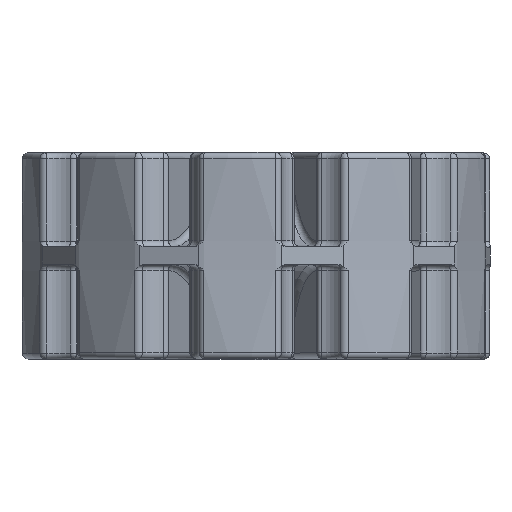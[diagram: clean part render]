
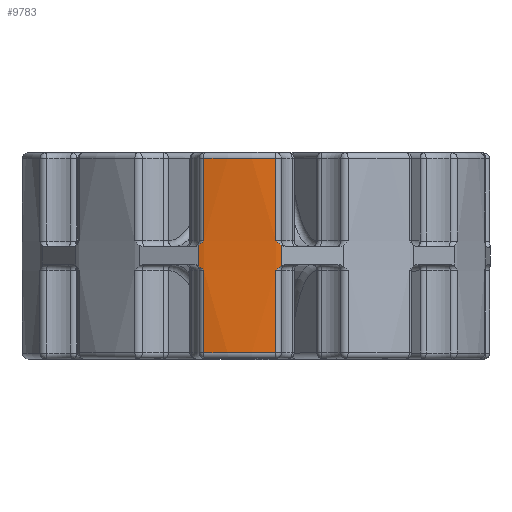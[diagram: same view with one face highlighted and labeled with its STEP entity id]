
A CAD part, top view. The second image highlights one B-rep face of the part: STEP entity #9783.
In plain terms, the highlighted cylindrical face has radius 39.8 mm (diameter 79.6 mm), a partial arc.
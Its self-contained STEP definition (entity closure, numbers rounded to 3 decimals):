
#481=CYLINDRICAL_SURFACE('',#10705,39.8);
#709=B_SPLINE_CURVE_WITH_KNOTS('',3,(#16665,#16666,#16667,#16668),
 .UNSPECIFIED.,.F.,.F.,(4,4),(0.,0.001),.UNSPECIFIED.);
#710=B_SPLINE_CURVE_WITH_KNOTS('',3,(#16676,#16677,#16678,#16679),
 .UNSPECIFIED.,.F.,.F.,(4,4),(0.,0.001),
 .UNSPECIFIED.);
#711=B_SPLINE_CURVE_WITH_KNOTS('',3,(#16683,#16684,#16685,#16686),
 .UNSPECIFIED.,.F.,.F.,(4,4),(0.,0.001),
 .UNSPECIFIED.);
#712=B_SPLINE_CURVE_WITH_KNOTS('',3,(#16694,#16695,#16696,#16697),
 .UNSPECIFIED.,.F.,.F.,(4,4),(0.,0.001),.UNSPECIFIED.);
#1037=LINE('',#16662,#1377);
#1038=LINE('',#16670,#1378);
#1039=LINE('',#16674,#1379);
#1040=LINE('',#16681,#1380);
#1041=LINE('',#16688,#1381);
#1042=LINE('',#16692,#1382);
#1377=VECTOR('',#12764,1000.);
#1378=VECTOR('',#12765,1000.);
#1379=VECTOR('',#12768,1000.);
#1380=VECTOR('',#12769,1000.);
#1381=VECTOR('',#12770,1000.);
#1382=VECTOR('',#12773,1000.);
#2034=ORIENTED_EDGE('',*,*,#5145,.T.);
#2035=ORIENTED_EDGE('',*,*,#5146,.T.);
#2036=ORIENTED_EDGE('',*,*,#5147,.T.);
#2037=ORIENTED_EDGE('',*,*,#5148,.T.);
#2038=ORIENTED_EDGE('',*,*,#5149,.T.);
#2039=ORIENTED_EDGE('',*,*,#5150,.T.);
#2040=ORIENTED_EDGE('',*,*,#5151,.F.);
#2041=ORIENTED_EDGE('',*,*,#5152,.T.);
#2042=ORIENTED_EDGE('',*,*,#5153,.T.);
#2043=ORIENTED_EDGE('',*,*,#5154,.T.);
#2044=ORIENTED_EDGE('',*,*,#5155,.T.);
#2045=ORIENTED_EDGE('',*,*,#5156,.T.);
#5145=EDGE_CURVE('',#6663,#6664,#1037,.T.);
#5146=EDGE_CURVE('',#6664,#6665,#709,.T.);
#5147=EDGE_CURVE('',#6665,#6666,#1038,.T.);
#5148=EDGE_CURVE('',#6666,#6667,#7413,.F.);
#5149=EDGE_CURVE('',#6667,#6668,#1039,.F.);
#5150=EDGE_CURVE('',#6668,#6669,#710,.F.);
#5151=EDGE_CURVE('',#6670,#6669,#1040,.T.);
#5152=EDGE_CURVE('',#6670,#6671,#711,.T.);
#5153=EDGE_CURVE('',#6671,#6672,#1041,.F.);
#5154=EDGE_CURVE('',#6672,#6673,#7414,.T.);
#5155=EDGE_CURVE('',#6673,#6674,#1042,.T.);
#5156=EDGE_CURVE('',#6674,#6663,#712,.F.);
#6663=VERTEX_POINT('',#16663);
#6664=VERTEX_POINT('',#16664);
#6665=VERTEX_POINT('',#16669);
#6666=VERTEX_POINT('',#16671);
#6667=VERTEX_POINT('',#16673);
#6668=VERTEX_POINT('',#16675);
#6669=VERTEX_POINT('',#16680);
#6670=VERTEX_POINT('',#16682);
#6671=VERTEX_POINT('',#16687);
#6672=VERTEX_POINT('',#16689);
#6673=VERTEX_POINT('',#16691);
#6674=VERTEX_POINT('',#16693);
#7413=CIRCLE('',#10706,39.8);
#7414=CIRCLE('',#10707,39.8);
#8292=EDGE_LOOP('',(#2034,#2035,#2036,#2037,#2038,#2039,#2040,#2041,#2042,
#2043,#2044,#2045));
#9002=FACE_BOUND('',#8292,.T.);
#9783=ADVANCED_FACE('',(#9002),#481,.T.);
#10705=AXIS2_PLACEMENT_3D('',#16661,#12762,#12763);
#10706=AXIS2_PLACEMENT_3D('',#16672,#12766,#12767);
#10707=AXIS2_PLACEMENT_3D('',#16690,#12771,#12772);
#12762=DIRECTION('',(0.,1.,0.));
#12763=DIRECTION('',(0.,0.,1.));
#12764=DIRECTION('',(0.,1.,0.));
#12765=DIRECTION('',(0.,1.,0.));
#12766=DIRECTION('',(0.,1.,0.));
#12767=DIRECTION('',(0.,0.,1.));
#12768=DIRECTION('',(0.,1.,0.));
#12769=DIRECTION('',(0.,1.,0.));
#12770=DIRECTION('',(0.,1.,0.));
#12771=DIRECTION('',(0.,1.,0.));
#12772=DIRECTION('',(0.,0.,1.));
#12773=DIRECTION('',(0.,1.,0.));
#16661=CARTESIAN_POINT('',(0.,-17.5,0.));
#16662=CARTESIAN_POINT('',(4.292,-1.5,39.568));
#16663=CARTESIAN_POINT('',(4.292,-1.748,39.568));
#16664=CARTESIAN_POINT('',(4.292,1.748,39.568));
#16665=CARTESIAN_POINT('',(4.292,1.748,39.568));
#16666=CARTESIAN_POINT('',(3.949,1.947,39.605));
#16667=CARTESIAN_POINT('',(3.669,2.225,39.631));
#16668=CARTESIAN_POINT('',(3.391,2.5,39.655));
#16669=CARTESIAN_POINT('',(3.391,2.5,39.655));
#16670=CARTESIAN_POINT('',(3.391,-17.5,39.655));
#16671=CARTESIAN_POINT('',(3.391,16.5,39.655));
#16672=CARTESIAN_POINT('',(0.,16.5,0.));
#16673=CARTESIAN_POINT('',(-8.877,16.5,38.797));
#16674=CARTESIAN_POINT('',(-8.877,-17.5,38.797));
#16675=CARTESIAN_POINT('',(-8.877,2.5,38.797));
#16676=CARTESIAN_POINT('',(-9.757,1.748,38.586));
#16677=CARTESIAN_POINT('',(-9.422,1.947,38.67));
#16678=CARTESIAN_POINT('',(-9.149,2.225,38.735));
#16679=CARTESIAN_POINT('',(-8.877,2.5,38.797));
#16680=CARTESIAN_POINT('',(-9.757,1.748,38.586));
#16681=CARTESIAN_POINT('',(-9.757,-1.5,38.586));
#16682=CARTESIAN_POINT('',(-9.757,-1.748,38.586));
#16683=CARTESIAN_POINT('',(-9.757,-1.748,38.586));
#16684=CARTESIAN_POINT('',(-9.422,-1.947,38.67));
#16685=CARTESIAN_POINT('',(-9.149,-2.225,38.735));
#16686=CARTESIAN_POINT('',(-8.877,-2.5,38.797));
#16687=CARTESIAN_POINT('',(-8.877,-2.5,38.797));
#16688=CARTESIAN_POINT('',(-8.877,-17.5,38.797));
#16689=CARTESIAN_POINT('',(-8.877,-16.5,38.797));
#16690=CARTESIAN_POINT('',(0.,-16.5,0.));
#16691=CARTESIAN_POINT('',(3.391,-16.5,39.655));
#16692=CARTESIAN_POINT('',(3.391,-17.5,39.655));
#16693=CARTESIAN_POINT('',(3.391,-2.5,39.655));
#16694=CARTESIAN_POINT('',(4.292,-1.748,39.568));
#16695=CARTESIAN_POINT('',(3.949,-1.947,39.605));
#16696=CARTESIAN_POINT('',(3.669,-2.225,39.631));
#16697=CARTESIAN_POINT('',(3.391,-2.5,39.655));
